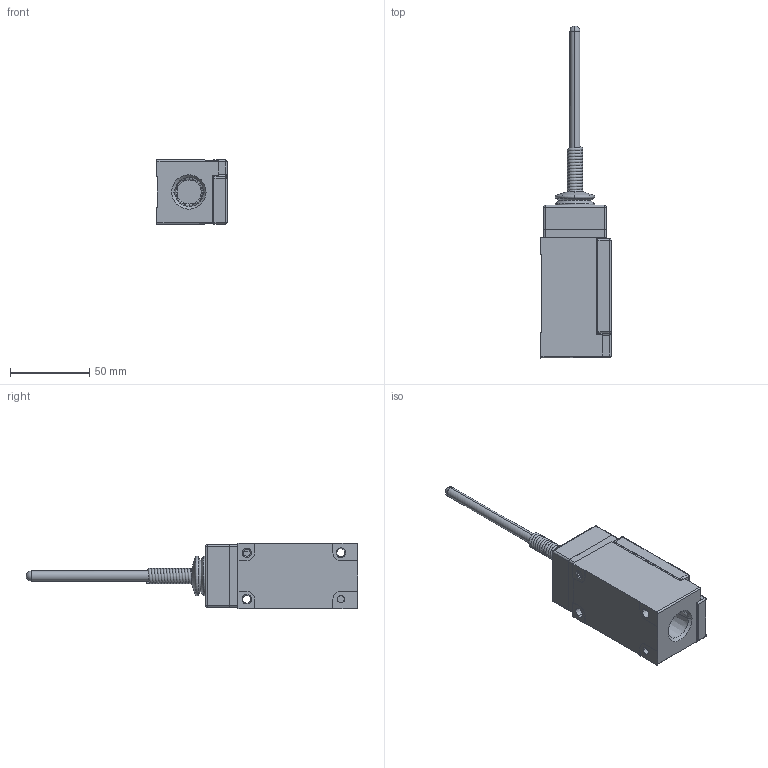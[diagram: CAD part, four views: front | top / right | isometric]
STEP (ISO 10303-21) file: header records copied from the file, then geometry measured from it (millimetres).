
FILE_DESCRIPTION((''),'2;1');
FILE_NAME('LSJ3K-7A','2012-12-06T',('E522935'),(''),'PRO/ENGINEER BY PARAMETRIC TECHNOLOGY CORPORATION, 2009460','PRO/ENGINEER BY PARAMETRIC TECHNOLOGY CORPORATION, 2009460','');
FILE_SCHEMA(('CONFIG_CONTROL_DESIGN'));
Length unit declared in the file: inch
Products named in the file (1): LSJ3K-7A
Bounding box: 44.32 x 210.05 x 41.15 mm (x, y, z)
Volume: 165813.6 mm3; surface area: 30897.5 mm2
Topology: 2 solids, 2 shells, 466 faces, 1125 edges, 676 vertices
Faces by surface type: plane 238, cylinder 143, cone 36, sphere 24, bspline 17, torus 8
Entity records: 23368 total; most frequent: CARTESIAN_POINT 12556, DIRECTION 2260, ORIENTED_EDGE 2246, EDGE_CURVE 1123, AXIS2_PLACEMENT_3D 826, VERTEX_POINT 676, VECTOR 608, LINE 608
